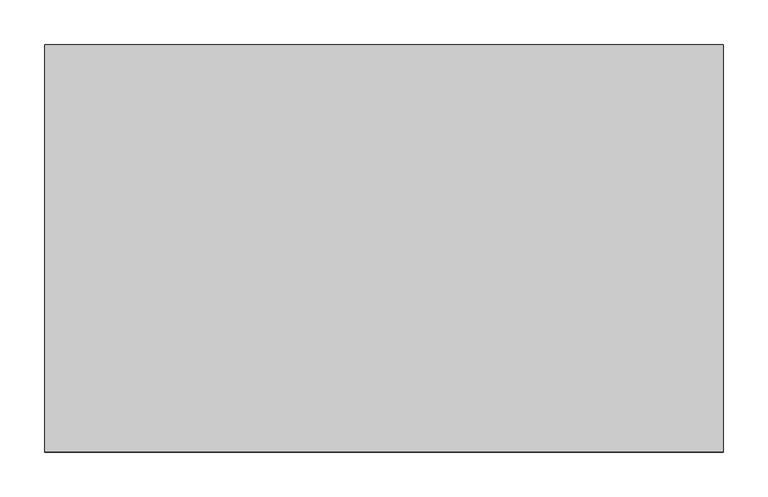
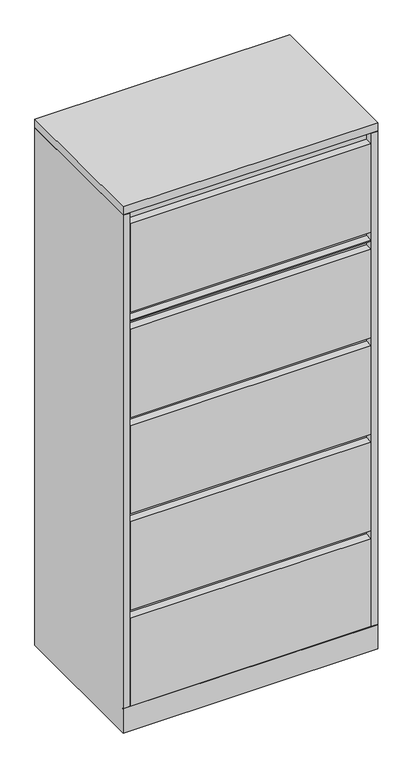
"""IFC4 building model written with IfcOpenShell, lengths in millimetres: furniture geometry, Steelcase - Universal Storage - Lateral File - 5 High - Flush Steel : 4 Drawers/1 Lift Up Door Fixed Shelf - 18D x 30W."""

from ifc_helpers import new_model, si_unit, frame, origin, place, context, project, spatial, polyline, outline, extrude, faceted_brep, source, transform, mapped, element, save


def furniture_a292d4f3(model_context):
    return source(origin(), model_context, "Body", "SolidModel", [
        extrude(outline(polyline([(762.0, 457.2), (762.0, 0.0), (0.0, 0.0), (0.0, 457.2), (762.0, 457.2)])), frame((0.0, 0.0, 1638.2999516), z_axis=(0.0, 0.0, 1.0), x_axis=(1.0, 0.0, 0.0)), (0.0, 0.0, 1.0), 25.4),
        faceted_brep([(762.0, 0.0, 0.0), (762.0, 457.2, 0.0), (762.0, 457.2, 1636.7759167), (762.0, 0.0, 1636.7759167), (762.0, 0.0, 77.7239985), (762.0, 1.524, 77.7239985), (762.0, 1.524, 76.2), (762.0, 0.0, 76.2), (0.0, 0.0, 0.0), (0.0, 0.0, 76.2), (0.0, 1.524, 76.2), (0.0, 1.524, 77.7239985), (0.0, 0.0, 77.7239985), (0.0, 0.0, 1636.7759167), (0.0, 457.2, 1636.7759167), (0.0, 457.2, 0.0), (19.304, 0.0, 1636.7759167), (19.304, 25.4000121, 1636.7759167), (742.696, 25.4000121, 1636.7759167), (742.696, 0.0, 1636.7759167), (19.304, 25.4000121, 101.600003), (742.696, 25.4000121, 101.600003), (19.304, 1.524, 101.600003), (742.696, 1.524, 101.600003), (742.696, 1.524, 77.7239985), (19.304, 1.524, 77.7239985), (19.304, 0.0, 77.7239985), (742.696, 0.0, 77.7239985)], [[[0, 1, 2, 3, 4, 5, 6, 7]], [[8, 9, 10, 11, 12, 13, 14, 15]], [[1, 0, 8, 15]], [[2, 1, 15, 14]], [[3, 2, 14, 13, 16, 17, 18, 19]], [[17, 20, 21, 18]], [[20, 22, 23, 21]], [[10, 6, 5, 24, 23, 22, 25, 11]], [[7, 6, 10, 9]], [[0, 7, 9, 8]], [[17, 16, 26, 25, 22, 20]], [[26, 16, 13, 12]], [[25, 26, 12, 11]], [[24, 27, 19, 18, 21, 23]], [[27, 24, 5, 4]], [[19, 27, 4, 3]]]),
        extrude(outline(polyline([(736.6000242, 431.7999992), (736.6000242, 25.4000121), (25.4000008, 25.4000121), (25.4000008, 431.7999992), (736.6000242, 431.7999992)])), frame((0.0, 0.0, 1636.7759167), z_axis=(0.0, 0.0, 1.0), x_axis=(1.0, 0.0, 0.0)), (0.0, 0.0, 1.0), 1.5240349),
        extrude(outline(polyline([(741.1719835, 0.0), (20.8280006, 0.0), (20.8280006, 25.4000121), (741.1719835, 25.4000121), (741.1719835, 0.0)])), frame((0.0, 0.0, 1295.4), z_axis=(0.0, 0.0, 1.0), x_axis=(1.0, 0.0, 0.0)), (0.0, 0.0, 1.0), 3.1749516),
        extrude(outline(polyline([(741.1719835, 0.0), (20.8280006, 0.0), (20.8280006, 25.4000121), (741.1719835, 25.4000121), (741.1719835, 0.0)])), frame((0.0, 0.0, 1323.975), z_axis=(0.0, 0.0, 1.0), x_axis=(1.0, 0.0, 0.0)), (0.0, 0.0, 1.0), 279.4),
        extrude(outline(polyline([(741.1719835, 0.0), (20.8280006, 0.0), (20.8280006, 25.4000121), (741.1719835, 25.4000121), (741.1719835, 0.0)])), frame((0.0, 0.0, 990.6), z_axis=(0.0, 0.0, 1.0), x_axis=(1.0, 0.0, 0.0)), (0.0, 0.0, 1.0), 279.4),
        extrude(outline(polyline([(741.1719835, 0.0), (20.8280006, 0.0), (20.8280006, 25.4000121), (741.1719835, 25.4000121), (741.1719835, 0.0)])), frame((0.0, 0.0, 685.8), z_axis=(0.0, 0.0, 1.0), x_axis=(1.0, 0.0, 0.0)), (0.0, 0.0, 1.0), 279.4),
        extrude(outline(polyline([(741.1719835, 0.0), (20.8280006, 0.0), (20.8280006, 25.4000121), (741.1719835, 25.4000121), (741.1719835, 0.0)])), frame((0.0, 0.0, 381.0), z_axis=(0.0, 0.0, 1.0), x_axis=(1.0, 0.0, 0.0)), (0.0, 0.0, 1.0), 279.4),
        extrude(outline(polyline([(741.1719835, 0.0), (20.8280006, 0.0), (20.8280006, 25.4000121), (741.1719835, 25.4000121), (741.1719835, 0.0)])), frame((0.0, 0.0, 77.7239985), z_axis=(0.0, 0.0, 1.0), x_axis=(1.0, 0.0, 0.0)), (0.0, 0.0, 1.0), 277.8759893),
    ])


if __name__ == "__main__":
    model = new_model("IFC4")
    model_context = context("Model", 3, world=origin())
    ifc_project = project(units=[si_unit("LENGTHUNIT", "METRE", prefix="MILLI")], contexts=[model_context])
    site = spatial("IfcSite", under=ifc_project)
    building = spatial("IfcBuilding", under=site)
    placement = place(None, origin())
    furniture_shape = furniture_a292d4f3(model_context)
    element("IfcFurniture", 1, ObjectType="Steelcase - Universal Storage - Lateral File - 5 High - Flush Steel : 4 Drawers/1 Lift Up Door Fixed Shelf - 18D x 30W", at=placement, inside=building, context=model_context, shape_type="MappedRepresentation", body=[
        mapped(furniture_shape, transform((0.0, 0.0, 0.0), x_axis=(1.0, 0.0, 0.0), y_axis=(0.0, 1.0, 0.0), z_axis=(0.0, 0.0, 1.0))),
    ])
    save(model, "model.ifc")
